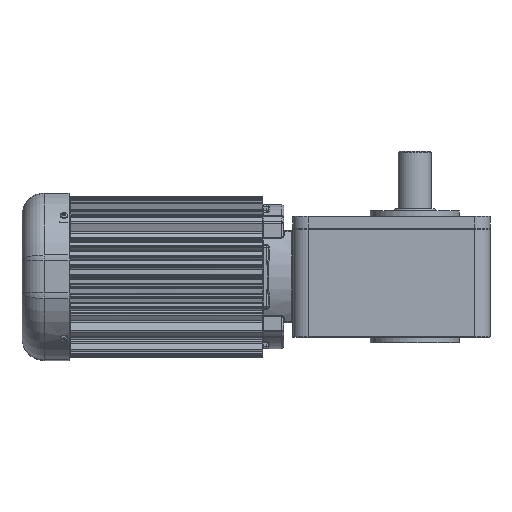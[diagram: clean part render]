
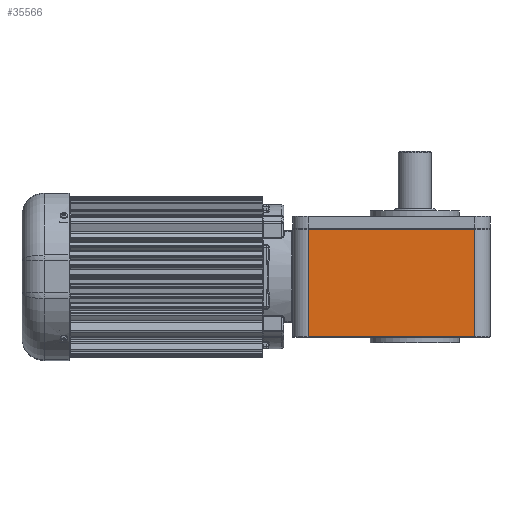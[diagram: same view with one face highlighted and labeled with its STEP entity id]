
A CAD part, front view. The second image highlights one B-rep face of the part: STEP entity #35566.
In plain terms, the highlighted planar face has unit normal (0, -1, 0).
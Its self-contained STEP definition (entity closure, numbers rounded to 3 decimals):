
#1376=PLANE('',#39369);
#3122=FACE_OUTER_BOUND('',#5393,.T.);
#5393=EDGE_LOOP('',(#30428,#30429,#30430,#30431));
#10696=LINE('',#64696,#13189);
#10725=LINE('',#64800,#13218);
#10736=LINE('',#64861,#13229);
#10737=LINE('',#64863,#13230);
#13189=VECTOR('',#48438,159.);
#13218=VECTOR('',#48565,159.);
#13229=VECTOR('',#48608,103.);
#13230=VECTOR('',#48611,103.);
#16379=VERTEX_POINT('',#64690);
#16380=VERTEX_POINT('',#64694);
#16393=VERTEX_POINT('',#64742);
#16406=VERTEX_POINT('',#64796);
#21151=EDGE_CURVE('',#16380,#16379,#10696,.T.);
#21203=EDGE_CURVE('',#16393,#16406,#10725,.T.);
#21224=EDGE_CURVE('',#16379,#16393,#10736,.T.);
#21225=EDGE_CURVE('',#16380,#16406,#10737,.T.);
#30428=ORIENTED_EDGE('',*,*,#21203,.F.);
#30429=ORIENTED_EDGE('',*,*,#21224,.F.);
#30430=ORIENTED_EDGE('',*,*,#21151,.F.);
#30431=ORIENTED_EDGE('',*,*,#21225,.T.);
#35566=ADVANCED_FACE('',(#3122),#1376,.T.);
#39369=AXIS2_PLACEMENT_3D('',#64862,#48609,#48610);
#48438=DIRECTION('',(1.,0.,0.));
#48565=DIRECTION('',(-1.,0.,0.));
#48608=DIRECTION('',(0.,0.,-1.));
#48609=DIRECTION('center_axis',(0.,-1.,0.));
#48610=DIRECTION('ref_axis',(0.,0.,-1.));
#48611=DIRECTION('',(0.,0.,-1.));
#64690=CARTESIAN_POINT('',(123.842,-119.502,19.867));
#64694=CARTESIAN_POINT('',(-35.158,-119.502,19.867));
#64696=CARTESIAN_POINT('',(-35.158,-119.502,19.867));
#64742=CARTESIAN_POINT('',(123.842,-119.502,-83.133));
#64796=CARTESIAN_POINT('',(-35.158,-119.502,-83.133));
#64800=CARTESIAN_POINT('',(123.842,-119.502,-83.133));
#64861=CARTESIAN_POINT('',(123.842,-119.502,19.867));
#64862=CARTESIAN_POINT('Origin',(123.842,-119.502,-25.633));
#64863=CARTESIAN_POINT('',(-35.158,-119.502,19.867));
